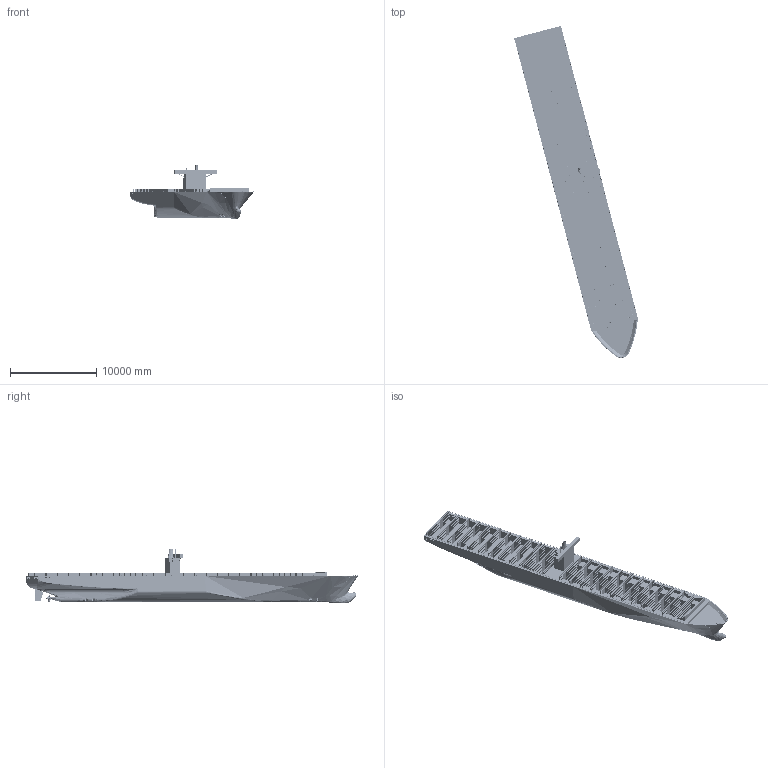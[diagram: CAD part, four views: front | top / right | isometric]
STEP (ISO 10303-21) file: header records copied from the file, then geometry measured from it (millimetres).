
FILE_DESCRIPTION(('CATIA V5 STEP Exchange'),'2;1');
FILE_NAME('D:\catia\Elly Maersk Ship\Product4.stp','2014-08-01T11:05:35+00:00',('none'),('none'),'CATIA Version 5 Release 19 GA (IN-10)','CATIA V5 STEP AP203','none');
FILE_SCHEMA(('CONFIG_CONTROL_DESIGN'));
Products named in the file (1): Product1
Assembly tree (21 placements, depth 2):
  Product1
    #56
    #85371
    #360463
    #403782
    #492988
    #654783
    #677324
    #678295
    #679187
    #726279  x2
    #729329  x2
    #731779  x2
    #737837  x2
    #738025  x2
    #747445
    #751724
Bounding box: 14308.69 x 38447.79 x 6362.88 mm (x, y, z)
Volume: 239279029236.7 mm3; surface area: 1634539566.5 mm2
Topology: 201 solids, 201 shells, 21085 faces, 61194 edges, 40074 vertices
Faces by surface type: plane 19207, cylinder 888, bspline 734, torus 104, sphere 88, revolution 50, extrusion 8, cone 6
Entity records: 751941 total; most frequent: CARTESIAN_POINT 216847, ORIENTED_EDGE 118904, DIRECTION 90569, EDGE_CURVE 59452, VECTOR 56125, LINE 56117, VERTEX_POINT 39021, EDGE_LOOP 27691
